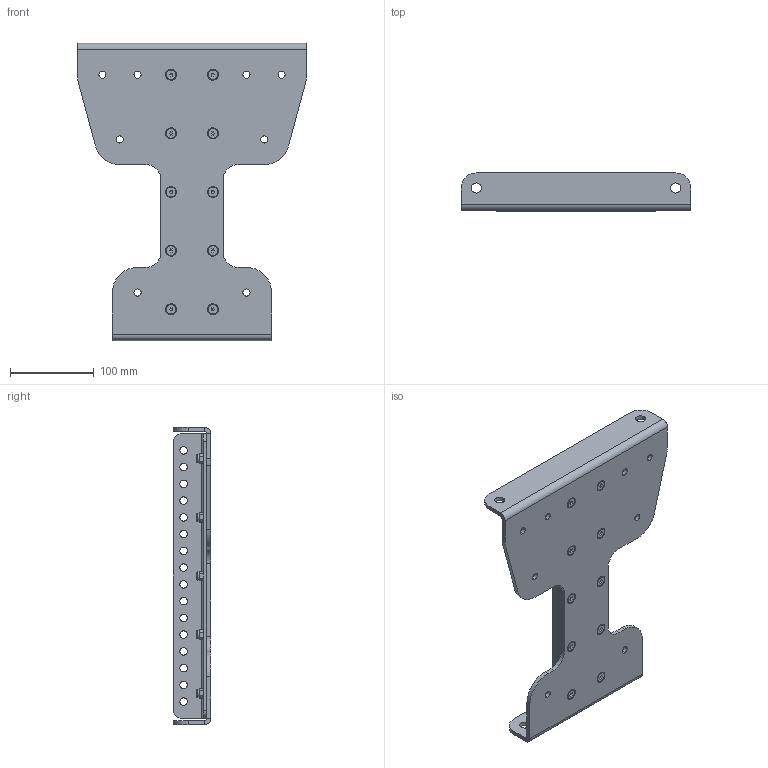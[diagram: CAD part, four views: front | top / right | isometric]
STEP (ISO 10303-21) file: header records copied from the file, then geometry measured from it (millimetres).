
FILE_DESCRIPTION (( 'STEP AP214' ), '1' );
FILE_NAME ('SEEBURG_K30_Cradle.STEP', '2026-06-25T10:23:12', ( '' ), ( '' ), 'SwSTEP 2.0', 'SolidWorks 2023', '' );
FILE_SCHEMA (( 'AUTOMOTIVE_DESIGN' ));
Length unit declared in the file: millimetre
Products named in the file (5): torque nut 01_iso_ISO 7040-M6-N; K30 Cradle Traverse; socket countersunk head screw_iso_ISO 10642 - M6 x 16 --- 16N; SEEBURG_K30_Cradle; K30 Cradle Base
Assembly tree (23 placements, depth 2):
  SEEBURG_K30_Cradle
    K30 Cradle Base
    K30 Cradle Traverse  x2
    socket countersunk head screw_iso_ISO 10642 - M6 x 16 --- 16N  x10
    torque nut 01_iso_ISO 7040-M6-N  x10
Bounding box: 274 x 45 x 355 mm (x, y, z)
Volume: 560405.6 mm3; surface area: 268809.4 mm2
Topology: 23 solids, 23 shells, 880 faces, 2040 edges, 1186 vertices
Faces by surface type: plane 322, cylinder 298, cone 220, torus 40
Entity records: 8364 total; most frequent: DIRECTION 1514, CARTESIAN_POINT 1462, ORIENTED_EDGE 1316, EDGE_CURVE 658, AXIS2_PLACEMENT_3D 595, VERTEX_POINT 399, EDGE_LOOP 349, VECTOR 324
